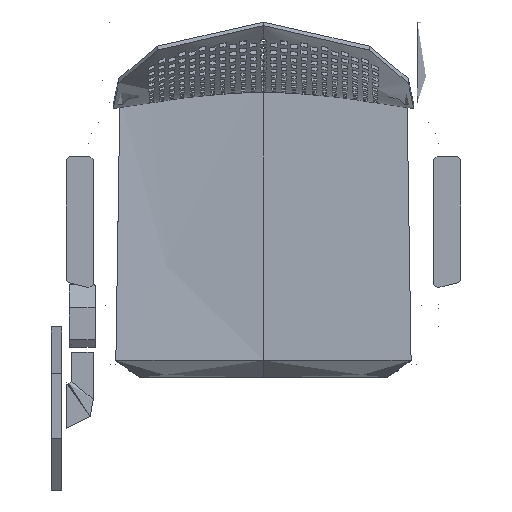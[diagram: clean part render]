
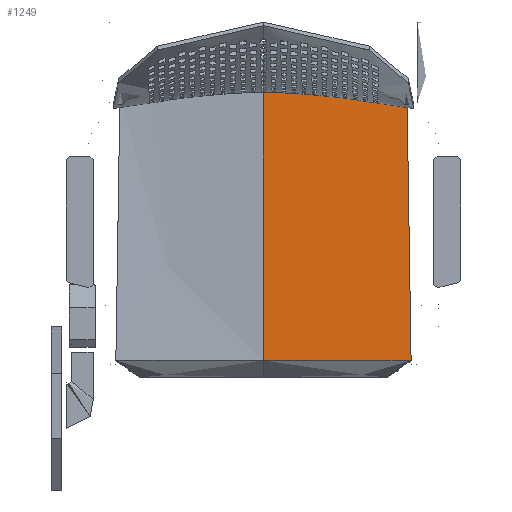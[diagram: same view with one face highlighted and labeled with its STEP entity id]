
A CAD part, top view. The second image highlights one B-rep face of the part: STEP entity #1249.
In plain terms, the highlighted free-form (B-spline) face has degree [3, 3] with [6, 4] control points.
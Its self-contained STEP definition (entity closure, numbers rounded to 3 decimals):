
#96=B_SPLINE_SURFACE_WITH_KNOTS('',3,3,((#30463,#30464,#30465,#30466),(#30467,
#30468,#30469,#30470),(#30471,#30472,#30473,#30474),(#30475,#30476,#30477,
#30478),(#30479,#30480,#30481,#30482),(#30483,#30484,#30485,#30486)),
 .UNSPECIFIED.,.F.,.F.,.F.,(4,1,1,4),(4,4),(41.19,186.899,
332.608,478.754),(-0.436,218.041),
 .UNSPECIFIED.);
#1249=ADVANCED_FACE('',(#2392),#96,.T.);
#2392=FACE_OUTER_BOUND('',#3763,.T.);
#3763=EDGE_LOOP('',(#8058,#8059,#8060,#8061,#8062));
#8058=ORIENTED_EDGE('',*,*,#12973,.T.);
#8059=ORIENTED_EDGE('',*,*,#12953,.F.);
#8060=ORIENTED_EDGE('',*,*,#11435,.T.);
#8061=ORIENTED_EDGE('',*,*,#12957,.F.);
#8062=ORIENTED_EDGE('',*,*,#12964,.F.);
#11435=EDGE_CURVE('',#18012,#18018,#14670,.T.);
#12953=EDGE_CURVE('',#18012,#19036,#16180,.T.);
#12957=EDGE_CURVE('',#19038,#18018,#16184,.T.);
#12964=EDGE_CURVE('',#19041,#19038,#16191,.T.);
#12973=EDGE_CURVE('',#19041,#19036,#17843,.T.);
#14670=B_SPLINE_CURVE_WITH_KNOTS('',3,(#36379,#36380,#36381,#36382,#36383,
#36384),.UNSPECIFIED.,.F.,.F.,(4,1,1,4),(-478.317,-332.608,
-186.899,-41.19),.UNSPECIFIED.);
#16180=B_SPLINE_CURVE_WITH_KNOTS('',3,(#48266,#48267,#48268,#48269),
 .UNSPECIFIED.,.F.,.F.,(4,4),(-218.041,-38.983),
 .UNSPECIFIED.);
#16184=B_SPLINE_CURVE_WITH_KNOTS('',3,(#48280,#48281,#48282,#48283),
 .UNSPECIFIED.,.F.,.F.,(4,4),(0.,218.041),.UNSPECIFIED.);
#16191=B_SPLINE_CURVE_WITH_KNOTS('',1,(#48344,#48345),.UNSPECIFIED.,.F.,
 .F.,(2,2),(-388.74,0.),.UNSPECIFIED.);
#17843=(
BOUNDED_CURVE()
B_SPLINE_CURVE(3,(#48477,#48478,#48479,#48480,#48481,#48482,#48483,#48484,
#48485,#48486,#48487,#48488,#48489,#48490,#48491,#48492,#48493,#48494,#48495,
#48496,#48497,#48498,#48499,#48500,#48501,#48502,#48503,#48504,#48505,#48506,
#48507),.UNSPECIFIED.,.F.,.F.)
B_SPLINE_CURVE_WITH_KNOTS((4,1,1,3,3,1,1,1,3,1,3,3,3,3,4),(2.851,
11.912,18.296,25.391,29.766,33.648,
35.997,37.781,43.025,45.325,48.241,
51.964,58.29,64.261,66.204),
 .UNSPECIFIED.)
CURVE()
GEOMETRIC_REPRESENTATION_ITEM()
RATIONAL_B_SPLINE_CURVE((1.,1.,1.,1.,1.,
1.,1.,1.,1.,1.,1.,1.,1.,1.,
1.,1.,1.,1.,1.,1.,1.,1.,1.,1.,1.,1.,1.,1.,
1.,1.,1.))
REPRESENTATION_ITEM('')
);
#18012=VERTEX_POINT('',#33919);
#18018=VERTEX_POINT('',#33925);
#19036=VERTEX_POINT('',#34943);
#19038=VERTEX_POINT('',#34945);
#19041=VERTEX_POINT('',#34948);
#30463=CARTESIAN_POINT('',(218.048,-200.999,457.095));
#30464=CARTESIAN_POINT('',(145.365,-200.999,455.087));
#30465=CARTESIAN_POINT('',(72.683,-200.999,454.083));
#30466=CARTESIAN_POINT('',(0.,-200.999,454.083));
#30467=CARTESIAN_POINT('',(217.329,-154.605,456.325));
#30468=CARTESIAN_POINT('',(144.886,-164.658,454.484));
#30469=CARTESIAN_POINT('',(72.443,-169.684,453.563));
#30470=CARTESIAN_POINT('',(0.,-169.684,453.563));
#30471=CARTESIAN_POINT('',(215.891,-62.02,454.852));
#30472=CARTESIAN_POINT('',(143.927,-58.489,442.29));
#30473=CARTESIAN_POINT('',(71.964,-56.724,436.009));
#30474=CARTESIAN_POINT('',(0.,-56.724,436.009));
#30475=CARTESIAN_POINT('',(213.732,77.057,452.542));
#30476=CARTESIAN_POINT('',(142.488,90.792,440.302));
#30477=CARTESIAN_POINT('',(71.244,97.659,434.182));
#30478=CARTESIAN_POINT('',(0.,97.659,434.182));
#30479=CARTESIAN_POINT('',(212.292,169.882,450.959));
#30480=CARTESIAN_POINT('',(141.528,180.446,446.036));
#30481=CARTESIAN_POINT('',(70.764,185.728,443.575));
#30482=CARTESIAN_POINT('',(0.,185.728,443.575));
#30483=CARTESIAN_POINT('',(211.571,216.377,450.176));
#30484=CARTESIAN_POINT('',(141.047,223.036,447.407));
#30485=CARTESIAN_POINT('',(70.524,226.365,446.022));
#30486=CARTESIAN_POINT('',(0.,226.365,446.022));
#33919=CARTESIAN_POINT('',(0.,226.,446.));
#33925=CARTESIAN_POINT('',(0.,-200.999,454.083));
#34943=CARTESIAN_POINT('',(173.403,219.256,448.809));
#34945=CARTESIAN_POINT('',(217.613,-200.999,457.083));
#34948=CARTESIAN_POINT('',(211.594,187.641,450.636));
#36379=CARTESIAN_POINT('',(0.,226.,446.));
#36380=CARTESIAN_POINT('',(0.,185.464,443.547));
#36381=CARTESIAN_POINT('',(0.,97.505,434.184));
#36382=CARTESIAN_POINT('',(0.,-56.724,436.009));
#36383=CARTESIAN_POINT('',(0.,-169.684,453.563));
#36384=CARTESIAN_POINT('',(0.,-200.999,454.083));
#48266=CARTESIAN_POINT('',(0.,226.,446.));
#48267=CARTESIAN_POINT('',(57.801,226.,446.));
#48268=CARTESIAN_POINT('',(115.602,223.752,446.936));
#48269=CARTESIAN_POINT('',(173.403,219.256,448.809));
#48280=CARTESIAN_POINT('',(217.613,-200.999,457.083));
#48281=CARTESIAN_POINT('',(145.075,-200.999,455.083));
#48282=CARTESIAN_POINT('',(72.538,-200.999,454.083));
#48283=CARTESIAN_POINT('',(0.,-200.999,454.083));
#48344=CARTESIAN_POINT('',(211.594,187.641,450.636));
#48345=CARTESIAN_POINT('',(217.613,-200.999,457.083));
#48477=CARTESIAN_POINT('',(211.594,187.641,450.636));
#48478=CARTESIAN_POINT('',(208.679,186.894,450.478));
#48479=CARTESIAN_POINT('',(203.606,186.011,450.189));
#48480=CARTESIAN_POINT('',(196.091,185.782,449.749));
#48481=CARTESIAN_POINT('',(191.609,186.251,449.489));
#48482=CARTESIAN_POINT('',(189.278,186.675,449.358));
#48483=CARTESIAN_POINT('',(187.842,186.937,449.277));
#48484=CARTESIAN_POINT('',(186.416,187.277,449.198));
#48485=CARTESIAN_POINT('',(185.031,187.75,449.123));
#48486=CARTESIAN_POINT('',(183.804,188.17,449.057));
#48487=CARTESIAN_POINT('',(181.884,189.018,448.957));
#48488=CARTESIAN_POINT('',(179.674,190.557,448.852));
#48489=CARTESIAN_POINT('',(177.367,192.702,448.75));
#48490=CARTESIAN_POINT('',(176.067,194.709,448.706));
#48491=CARTESIAN_POINT('',(175.373,196.318,448.689));
#48492=CARTESIAN_POINT('',(175.068,197.024,448.682));
#48493=CARTESIAN_POINT('',(174.486,198.671,448.671));
#48494=CARTESIAN_POINT('',(174.139,200.38,448.674));
#48495=CARTESIAN_POINT('',(173.994,201.341,448.677));
#48496=CARTESIAN_POINT('',(173.808,202.569,448.682));
#48497=CARTESIAN_POINT('',(173.711,203.807,448.69));
#48498=CARTESIAN_POINT('',(173.639,205.044,448.699));
#48499=CARTESIAN_POINT('',(173.514,207.147,448.715));
#48500=CARTESIAN_POINT('',(173.478,209.253,448.733));
#48501=CARTESIAN_POINT('',(173.454,211.358,448.75));
#48502=CARTESIAN_POINT('',(173.431,213.344,448.767));
#48503=CARTESIAN_POINT('',(173.424,215.331,448.782));
#48504=CARTESIAN_POINT('',(173.414,217.317,448.796));
#48505=CARTESIAN_POINT('',(173.411,217.963,448.801));
#48506=CARTESIAN_POINT('',(173.407,218.61,448.805));
#48507=CARTESIAN_POINT('',(173.403,219.256,448.809));
